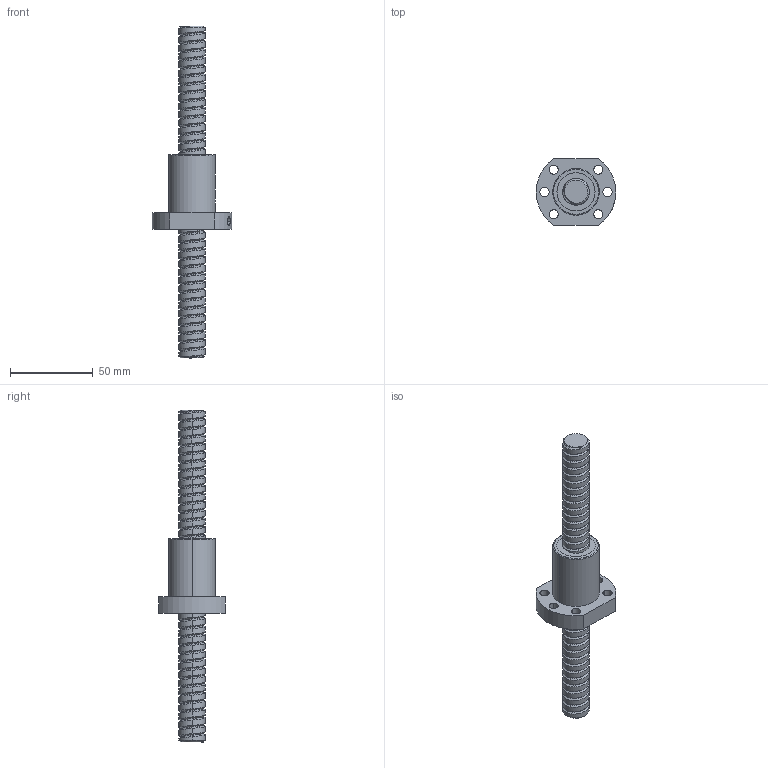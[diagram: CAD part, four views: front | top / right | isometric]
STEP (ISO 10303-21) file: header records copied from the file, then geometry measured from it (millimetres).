
FILE_DESCRIPTION (( 'STEP AP214' ), '1' );
FILE_NAME ('SFU1605-C-SFU1605.STEP', '2025-04-25T12:43:25', ( '' ), ( '' ), 'SwSTEP 2.0', 'SolidWorks 2019', '' );
FILE_SCHEMA (( 'AUTOMOTIVE_DESIGN' ));
Length unit declared in the file: millimetre
Products named in the file (3): SFU1605; C-SFU16; SFU1605-C-SFU1605
Assembly tree (2 placements, depth 2):
  SFU1605-C-SFU1605
    SFU1605
    C-SFU16
Bounding box: 48 x 40 x 200 mm (x, y, z)
Volume: 65185.4 mm3; surface area: 25448.8 mm2
Topology: 4 solids, 4 shells, 154 faces, 470 edges, 328 vertices
Faces by surface type: cylinder 130, plane 13, cone 6, bspline 3, torus 2
Entity records: 29884 total; most frequent: CARTESIAN_POINT 25920, ORIENTED_EDGE 940, DIRECTION 647, EDGE_CURVE 470, VERTEX_POINT 328, AXIS2_PLACEMENT_3D 245, EDGE_LOOP 178, VECTOR 157
